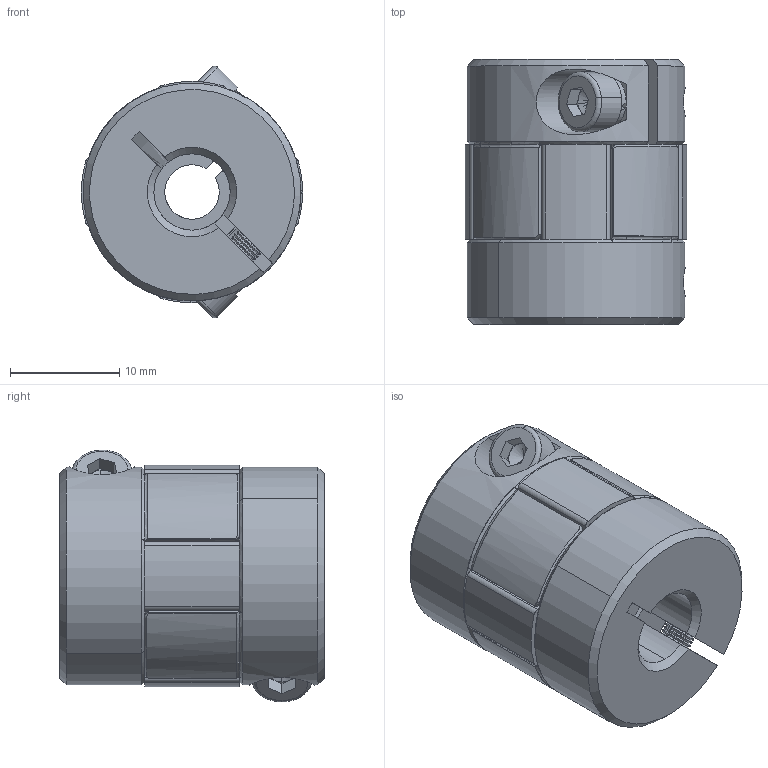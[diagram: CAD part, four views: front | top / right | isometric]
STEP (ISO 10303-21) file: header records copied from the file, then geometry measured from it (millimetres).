
FILE_DESCRIPTION (( 'STEP AP203' ), '1' );
FILE_NAME ('LF-B-D20L25-5-7.STEP', '2021-10-20T01:21:02', ( '' ), ( '' ), 'SwSTEP 2.0', 'SolidWorks 2018', '' );
FILE_SCHEMA (( 'CONFIG_CONTROL_DESIGN' ));
Length unit declared in the file: millimetre
Products named in the file (1): LF-B-D20L25-5-7
Bounding box: 20.31 x 24.3 x 23.09 mm (x, y, z)
Volume: 6582.4 mm3; surface area: 3570.8 mm2
Topology: 1 solids, 1 shells, 428 faces, 1069 edges, 633 vertices
Faces by surface type: cylinder 165, cone 158, plane 93, torus 12
Entity records: 13093 total; most frequent: CARTESIAN_POINT 2714, DIRECTION 2316, ORIENTED_EDGE 2130, EDGE_CURVE 1065, AXIS2_PLACEMENT_3D 953, VERTEX_POINT 633, CIRCLE 524, EDGE_LOOP 444
